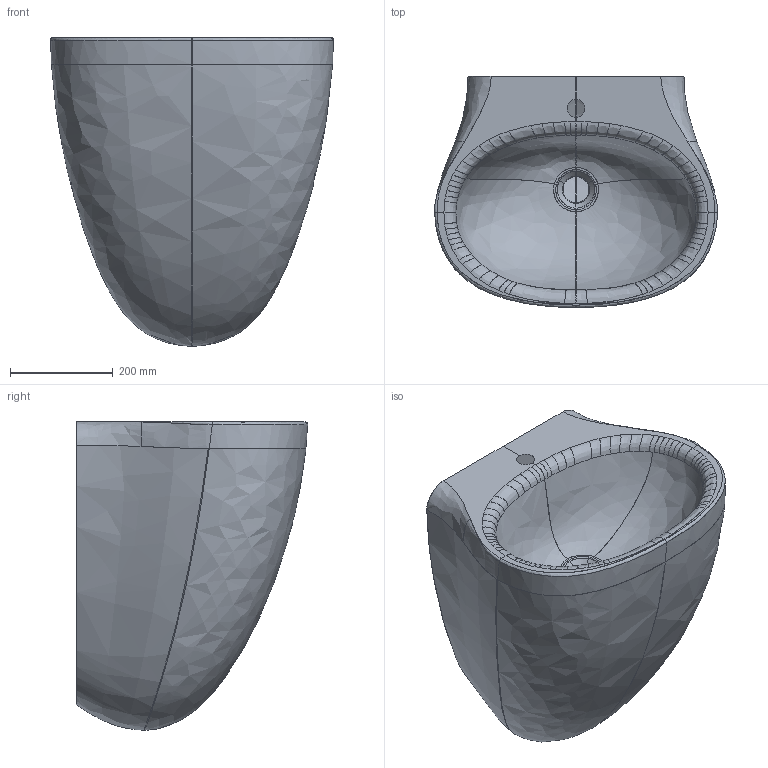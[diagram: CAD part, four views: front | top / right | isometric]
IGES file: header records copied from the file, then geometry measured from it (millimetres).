
Start section: START RECORD GO HERE.
Global section: file name: Lavabo sosp 55.igs; native system: IBM CATIA IGES - CATIA Version 5 Release 17 ; preprocessor: CATIA Version 5 Release 17 ; author: Luca; organization: PC-Luca; date: 20121108.150426; units: millimetre
Bounding box: 550.05 x 449.82 x 599.83 mm (x, y, z)
Surface area: 1188757.3 mm2 (no closed solid volume)
Topology: 0 solids, 0 shells, 119 faces, 726 edges, 722 vertices
Faces by surface type: bspline 119
